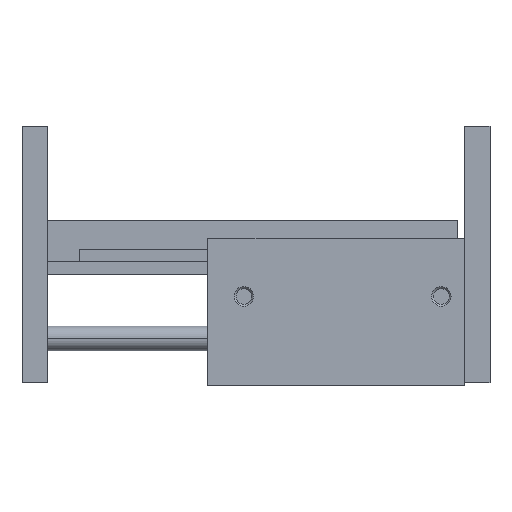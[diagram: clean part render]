
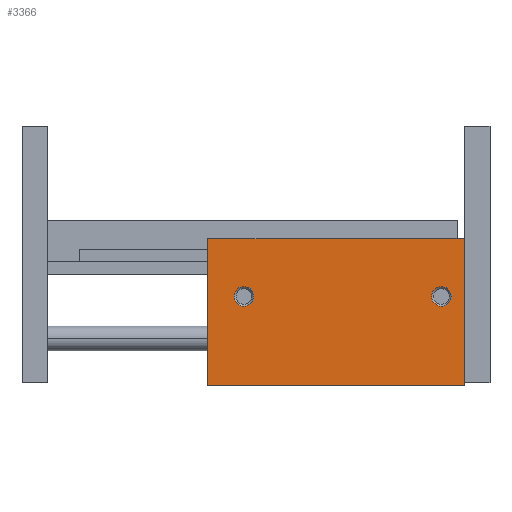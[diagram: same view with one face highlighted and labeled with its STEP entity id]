
A CAD part, top view. The second image highlights one B-rep face of the part: STEP entity #3366.
In plain terms, the highlighted planar face has unit normal (0, 0, 1) as drawn and (0, 0, -1) by its records, which use the part's own axes.
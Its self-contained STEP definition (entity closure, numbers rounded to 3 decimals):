
#32 = VERTEX_POINT ( 'NONE', #666 ) ;
#247 = CARTESIAN_POINT ( 'NONE',  ( 5.715, 3.886, -13.487 ) ) ;
#379 = DIRECTION ( 'NONE',  ( 0., 0., 1. ) ) ;
#383 = CIRCLE ( 'NONE', #7371, 2.413 ) ;
#394 = ORIENTED_EDGE ( 'NONE', *, *, #7461, .T. ) ;
#477 = AXIS2_PLACEMENT_3D ( 'NONE', #2202, #7021, #2888 ) ;
#498 = DIRECTION ( 'NONE',  ( -1., 0., 0. ) ) ;
#648 = CARTESIAN_POINT ( 'NONE',  ( 57.023, 3.886, -13.487 ) ) ;
#666 = CARTESIAN_POINT ( 'NONE',  ( 0., -18.161, -13.487 ) ) ;
#943 = DIRECTION ( 'NONE',  ( 1., 0., 0. ) ) ;
#1161 = EDGE_CURVE ( 'NONE', #3694, #5098, #7983, .T. ) ;
#1206 = ORIENTED_EDGE ( 'NONE', *, *, #5240, .T. ) ;
#1381 = ORIENTED_EDGE ( 'NONE', *, *, #2728, .T. ) ;
#1783 = VECTOR ( 'NONE', #3480, 1000. ) ;
#2185 = EDGE_LOOP ( 'NONE', ( #1381, #7911, #4154, #3217 ) ) ;
#2202 = CARTESIAN_POINT ( 'NONE',  ( 54.61, 3.886, -13.487 ) ) ;
#2374 = CARTESIAN_POINT ( 'NONE',  ( 63.5, 18.161, -13.487 ) ) ;
#2421 = FACE_OUTER_BOUND ( 'NONE', #2185, .T. ) ;
#2541 = CARTESIAN_POINT ( 'NONE',  ( 63.5, -18.161, -13.487 ) ) ;
#2647 = VERTEX_POINT ( 'NONE', #6679 ) ;
#2728 = EDGE_CURVE ( 'NONE', #32, #5098, #6442, .T. ) ;
#2833 = VECTOR ( 'NONE', #498, 1000. ) ;
#2841 = CARTESIAN_POINT ( 'NONE',  ( 0., 18.161, -13.487 ) ) ;
#2878 = EDGE_CURVE ( 'NONE', #7026, #3114, #383, .T. ) ;
#2888 = DIRECTION ( 'NONE',  ( 1., 0., 0. ) ) ;
#2993 = DIRECTION ( 'NONE',  ( -1., 0., 0. ) ) ;
#3047 = LINE ( 'NONE', #2541, #2833 ) ;
#3114 = VERTEX_POINT ( 'NONE', #8660 ) ;
#3147 = AXIS2_PLACEMENT_3D ( 'NONE', #6886, #4109, #3450 ) ;
#3217 = ORIENTED_EDGE ( 'NONE', *, *, #4769, .T. ) ;
#3366 = ADVANCED_FACE ( 'NONE', ( #4257, #2421, #5665 ), #7587, .F. ) ;
#3411 = EDGE_CURVE ( 'NONE', #4786, #3694, #7505, .T. ) ;
#3450 = DIRECTION ( 'NONE',  ( 1., 0., 0. ) ) ;
#3480 = DIRECTION ( 'NONE',  ( 0., 1., 0. ) ) ;
#3584 = CARTESIAN_POINT ( 'NONE',  ( 5.715, 3.886, -13.487 ) ) ;
#3694 = VERTEX_POINT ( 'NONE', #2374 ) ;
#3751 = EDGE_LOOP ( 'NONE', ( #1206, #6412 ) ) ;
#4027 = DIRECTION ( 'NONE',  ( 0., 1., 0. ) ) ;
#4086 = VECTOR ( 'NONE', #2993, 1000. ) ;
#4109 = DIRECTION ( 'NONE',  ( 0., 0., 1. ) ) ;
#4142 = CARTESIAN_POINT ( 'NONE',  ( 63.5, -18.161, -13.487 ) ) ;
#4154 = ORIENTED_EDGE ( 'NONE', *, *, #3411, .F. ) ;
#4257 = FACE_BOUND ( 'NONE', #3751, .T. ) ;
#4261 = DIRECTION ( 'NONE',  ( 1., 0., 0. ) ) ;
#4289 = CIRCLE ( 'NONE', #477, 2.413 ) ;
#4427 = CARTESIAN_POINT ( 'NONE',  ( 8.128, 3.886, -13.487 ) ) ;
#4501 = CARTESIAN_POINT ( 'NONE',  ( 54.61, 3.886, -13.487 ) ) ;
#4705 = CARTESIAN_POINT ( 'NONE',  ( 0., -18.161, -13.487 ) ) ;
#4769 = EDGE_CURVE ( 'NONE', #4786, #32, #3047, .T. ) ;
#4786 = VERTEX_POINT ( 'NONE', #5327 ) ;
#4804 = VECTOR ( 'NONE', #4027, 1000. ) ;
#4955 = VERTEX_POINT ( 'NONE', #648 ) ;
#5064 = DIRECTION ( 'NONE',  ( 0., 0., 1. ) ) ;
#5098 = VERTEX_POINT ( 'NONE', #2841 ) ;
#5200 = DIRECTION ( 'NONE',  ( 1., 0., 0. ) ) ;
#5240 = EDGE_CURVE ( 'NONE', #3114, #7026, #6934, .T. ) ;
#5327 = CARTESIAN_POINT ( 'NONE',  ( 63.5, -18.161, -13.487 ) ) ;
#5651 = ORIENTED_EDGE ( 'NONE', *, *, #8222, .T. ) ;
#5665 = FACE_BOUND ( 'NONE', #8257, .T. ) ;
#6282 = AXIS2_PLACEMENT_3D ( 'NONE', #247, #5064, #943 ) ;
#6412 = ORIENTED_EDGE ( 'NONE', *, *, #2878, .T. ) ;
#6442 = LINE ( 'NONE', #4705, #4804 ) ;
#6565 = CIRCLE ( 'NONE', #8012, 2.413 ) ;
#6679 = CARTESIAN_POINT ( 'NONE',  ( 52.197, 3.886, -13.487 ) ) ;
#6886 = CARTESIAN_POINT ( 'NONE',  ( 63.5, -18.161, -13.487 ) ) ;
#6934 = CIRCLE ( 'NONE', #6282, 2.413 ) ;
#7021 = DIRECTION ( 'NONE',  ( 0., 0., 1. ) ) ;
#7026 = VERTEX_POINT ( 'NONE', #4427 ) ;
#7371 = AXIS2_PLACEMENT_3D ( 'NONE', #3584, #8421, #4261 ) ;
#7461 = EDGE_CURVE ( 'NONE', #4955, #2647, #4289, .T. ) ;
#7505 = LINE ( 'NONE', #4142, #1783 ) ;
#7587 = PLANE ( 'NONE',  #3147 ) ;
#7911 = ORIENTED_EDGE ( 'NONE', *, *, #1161, .F. ) ;
#7983 = LINE ( 'NONE', #8536, #4086 ) ;
#8012 = AXIS2_PLACEMENT_3D ( 'NONE', #4501, #379, #5200 ) ;
#8222 = EDGE_CURVE ( 'NONE', #2647, #4955, #6565, .T. ) ;
#8257 = EDGE_LOOP ( 'NONE', ( #5651, #394 ) ) ;
#8421 = DIRECTION ( 'NONE',  ( 0., 0., 1. ) ) ;
#8536 = CARTESIAN_POINT ( 'NONE',  ( 63.5, 18.161, -13.487 ) ) ;
#8660 = CARTESIAN_POINT ( 'NONE',  ( 3.302, 3.886, -13.487 ) ) ;
